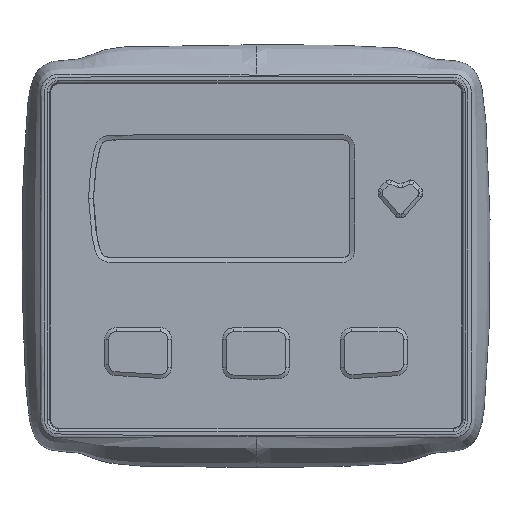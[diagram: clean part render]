
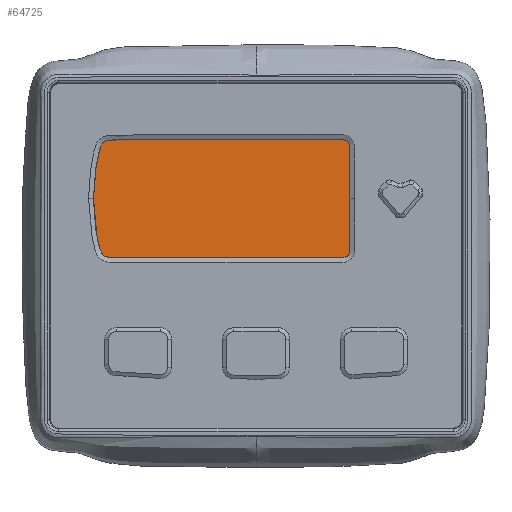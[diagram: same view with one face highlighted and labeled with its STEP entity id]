
A CAD part, top view. The second image highlights one B-rep face of the part: STEP entity #64725.
In plain terms, the highlighted planar face has unit normal (0, 0, 1).
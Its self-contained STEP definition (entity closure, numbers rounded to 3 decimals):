
#961 = CARTESIAN_POINT ( 'NONE',  ( -27.6, -0.362, -1.05 ) ) ;
#1162 = VERTEX_POINT ( 'NONE', #44957 ) ;
#1492 = CARTESIAN_POINT ( 'NONE',  ( 17.6, 1.138, -1.05 ) ) ;
#2791 = VERTEX_POINT ( 'NONE', #15369 ) ;
#3971 = ORIENTED_EDGE ( 'NONE', *, *, #63664, .F. ) ;
#4471 = EDGE_CURVE ( 'NONE', #2791, #50173, #84951, .T. ) ;
#5590 = EDGE_CURVE ( 'NONE', #50173, #17004, #61561, .T. ) ;
#6396 = DIRECTION ( 'NONE',  ( -1., 0., 0. ) ) ;
#6673 = CARTESIAN_POINT ( 'NONE',  ( -30.766, -0.029, -1.05 ) ) ;
#7152 = CARTESIAN_POINT ( 'NONE',  ( -32.183, 2.971, -1.05 ) ) ;
#7829 = ORIENTED_EDGE ( 'NONE', *, *, #17039, .F. ) ;
#10234 = EDGE_CURVE ( 'NONE', #17004, #67937, #20112, .T. ) ;
#13879 = CARTESIAN_POINT ( 'NONE',  ( 24.322, -2.763, -1.05 ) ) ;
#14399 = CARTESIAN_POINT ( 'NONE',  ( 19.1, 22.138, -1.05 ) ) ;
#14523 = LINE ( 'NONE', #86631, #48240 ) ;
#15369 = CARTESIAN_POINT ( 'NONE',  ( 19.1, 1.138, -1.05 ) ) ;
#16935 = EDGE_CURVE ( 'NONE', #69890, #2791, #93769, .T. ) ;
#17004 = VERTEX_POINT ( 'NONE', #49607 ) ;
#17039 = EDGE_CURVE ( 'NONE', #67937, #1162, #14523, .T. ) ;
#17234 = CIRCLE ( 'NONE', #76354, 1.5 ) ;
#17482 = DIRECTION ( 'NONE',  ( -1., 0., 0. ) ) ;
#19246 = ORIENTED_EDGE ( 'NONE', *, *, #10234, .F. ) ;
#20112 = B_SPLINE_CURVE_WITH_KNOTS ( 'NONE', 3,
 ( #961, #58792, #88225, #6673, #93518, #86376, #7152, #21385, #50293, #79254, #72153, #36066, #65019, #28975, #57875, #86841, #79729, #67335, #60184 ),
 .UNSPECIFIED., .F., .F.,
 ( 4, 3, 3, 3, 3, 3, 4 ),
 ( 0., 0.005, 0.01, 0.015, 0.02, 0.026, 0.031 ),
 .UNSPECIFIED. ) ;
#21101 = ORIENTED_EDGE ( 'NONE', *, *, #16935, .F. ) ;
#21385 = CARTESIAN_POINT ( 'NONE',  ( -32.6, 4.971, -1.05 ) ) ;
#28975 = CARTESIAN_POINT ( 'NONE',  ( -31.766, 22.304, -1.05 ) ) ;
#29055 = PLANE ( 'NONE',  #77978 ) ;
#30095 = CARTESIAN_POINT ( 'NONE',  ( 17.6, 22.138, -1.05 ) ) ;
#30253 = ORIENTED_EDGE ( 'NONE', *, *, #4471, .F. ) ;
#33329 = EDGE_LOOP ( 'NONE', ( #7829, #19246, #45816, #30253, #21101, #3971 ) ) ;
#36066 = CARTESIAN_POINT ( 'NONE',  ( -32.6, 18.304, -1.05 ) ) ;
#37665 = DIRECTION ( 'NONE',  ( -1., 0., 0. ) ) ;
#38006 = AXIS2_PLACEMENT_3D ( 'NONE', #1492, #59344, #6396 ) ;
#42510 = DIRECTION ( 'NONE',  ( 0., -1., 0. ) ) ;
#44133 = CARTESIAN_POINT ( 'NONE',  ( -27.6, 23.638, -1.05 ) ) ;
#44957 = CARTESIAN_POINT ( 'NONE',  ( 17.6, 23.638, -1.05 ) ) ;
#45816 = ORIENTED_EDGE ( 'NONE', *, *, #5590, .F. ) ;
#48240 = VECTOR ( 'NONE', #93301, 1000. ) ;
#49607 = CARTESIAN_POINT ( 'NONE',  ( -27.6, -0.362, -1.05 ) ) ;
#50173 = VERTEX_POINT ( 'NONE', #88888 ) ;
#50260 = VECTOR ( 'NONE', #17482, 1000. ) ;
#50293 = CARTESIAN_POINT ( 'NONE',  ( -33.1, 8.304, -1.05 ) ) ;
#51318 = DIRECTION ( 'NONE',  ( 0., 0., 1. ) ) ;
#57875 = CARTESIAN_POINT ( 'NONE',  ( -31.433, 22.971, -1.05 ) ) ;
#58792 = CARTESIAN_POINT ( 'NONE',  ( -29.1, -0.362, -1.05 ) ) ;
#59344 = DIRECTION ( 'NONE',  ( 0., 0., -1. ) ) ;
#60184 = CARTESIAN_POINT ( 'NONE',  ( -27.6, 23.638, -1.05 ) ) ;
#61561 = LINE ( 'NONE', #81538, #50260 ) ;
#63664 = EDGE_CURVE ( 'NONE', #1162, #69890, #17234, .T. ) ;
#64725 = ADVANCED_FACE ( 'NONE', ( #73157 ), #29055, .T. ) ;
#65019 = CARTESIAN_POINT ( 'NONE',  ( -32.183, 20.304, -1.05 ) ) ;
#67335 = CARTESIAN_POINT ( 'NONE',  ( -29.1, 23.638, -1.05 ) ) ;
#67937 = VERTEX_POINT ( 'NONE', #44133 ) ;
#69890 = VERTEX_POINT ( 'NONE', #14399 ) ;
#72153 = CARTESIAN_POINT ( 'NONE',  ( -33.1, 14.971, -1.05 ) ) ;
#72352 = DIRECTION ( 'NONE',  ( 0., 0., -1. ) ) ;
#73157 = FACE_OUTER_BOUND ( 'NONE', #33329, .T. ) ;
#76354 = AXIS2_PLACEMENT_3D ( 'NONE', #30095, #72352, #37665 ) ;
#77978 = AXIS2_PLACEMENT_3D ( 'NONE', #13879, #51318, #78871 ) ;
#78871 = DIRECTION ( 'NONE',  ( 1., 0., 0. ) ) ;
#79254 = CARTESIAN_POINT ( 'NONE',  ( -33.1, 11.638, -1.05 ) ) ;
#79729 = CARTESIAN_POINT ( 'NONE',  ( -30.1, 23.638, -1.05 ) ) ;
#81538 = CARTESIAN_POINT ( 'NONE',  ( -5., -0.362, -1.05 ) ) ;
#84757 = CARTESIAN_POINT ( 'NONE',  ( 19.1, 11.638, -1.05 ) ) ;
#84951 = CIRCLE ( 'NONE', #38006, 1.5 ) ;
#86376 = CARTESIAN_POINT ( 'NONE',  ( -31.766, 0.971, -1.05 ) ) ;
#86631 = CARTESIAN_POINT ( 'NONE',  ( -5., 23.638, -1.05 ) ) ;
#86841 = CARTESIAN_POINT ( 'NONE',  ( -30.766, 23.304, -1.05 ) ) ;
#87611 = VECTOR ( 'NONE', #42510, 1000. ) ;
#88225 = CARTESIAN_POINT ( 'NONE',  ( -30.1, -0.362, -1.05 ) ) ;
#88888 = CARTESIAN_POINT ( 'NONE',  ( 17.6, -0.362, -1.05 ) ) ;
#93301 = DIRECTION ( 'NONE',  ( 1., 0., 0. ) ) ;
#93518 = CARTESIAN_POINT ( 'NONE',  ( -31.433, 0.304, -1.05 ) ) ;
#93769 = LINE ( 'NONE', #84757, #87611 ) ;
